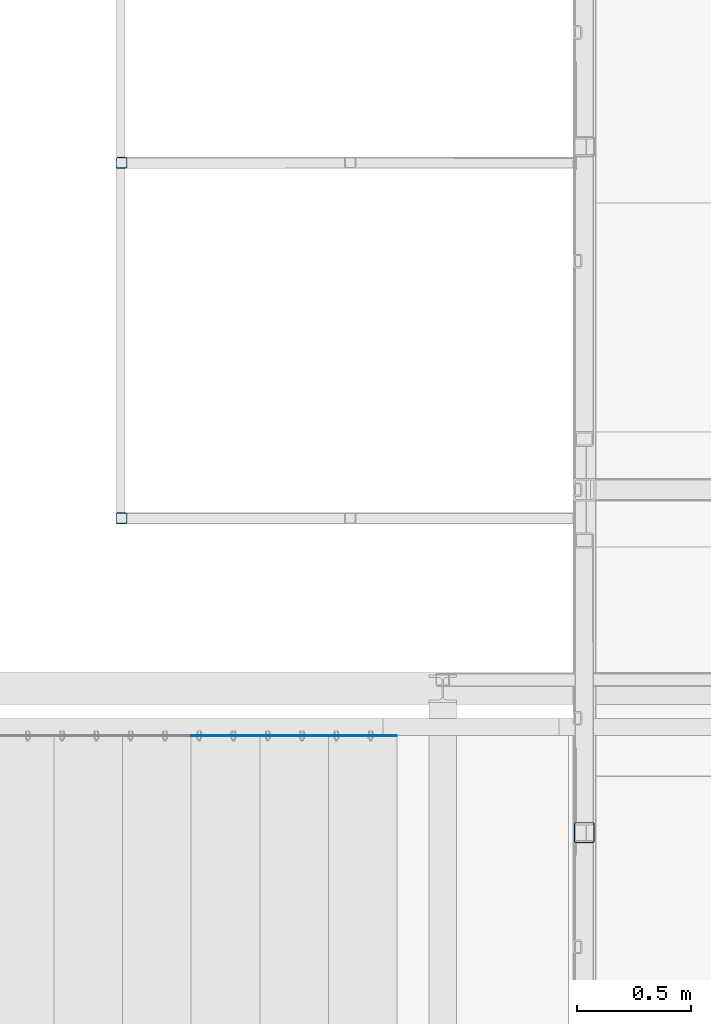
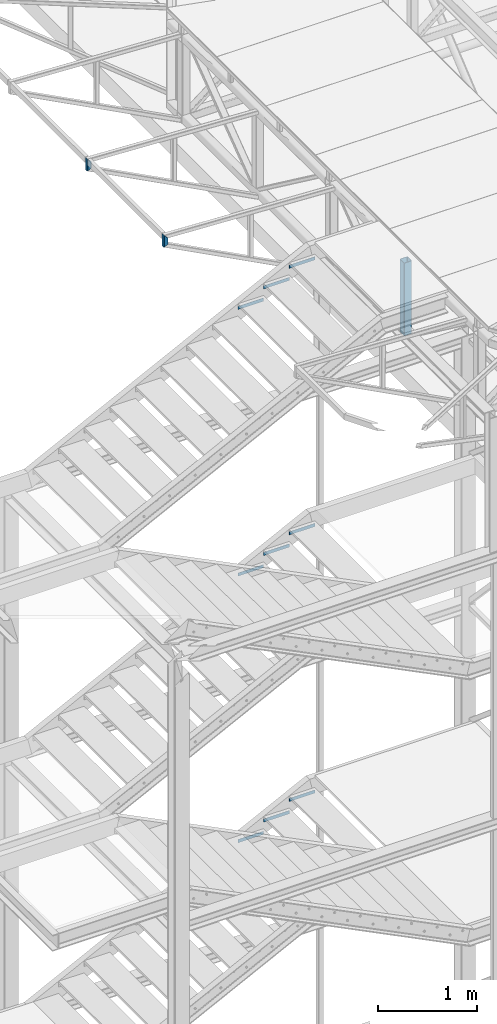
# One storey, part 71 of 132: 12 discrete accessories, 12 elements without a shape of their own.
"""IFC2X3 building model written with IfcOpenShell, lengths in millimetres."""

import ifcopenshell
import ifcopenshell.guid

model = None  # the IFC model being written
_history = None  # IfcOwnerHistory: only IFC2X3 demands one
_inside = {}  # id of a spatial element -> (the spatial element, [elements in it])
_under = {}  # id of a project, library or spatial element -> (it, [spatial elements below it])
_declared = {}  # id of a project -> (the project, [libraries it declares])
_typed = {}  # id of a type object -> (the type object, [elements of that type])
_made_of = {}  # id of a material, layer set ... -> (it, [elements and type objects made of it])


def new_model(schema):
    """Start an empty IFC model of exactly this schema.

    Asked for "IFC4X3", IfcOpenShell would pick the latest addendum, in which some entities
    have other attributes; the version numbers below select the first issue.
    IFC2X3 requires an IfcOwnerHistory on every rooted entity: one is made here for all.
    """
    global model, _history
    if schema == "IFC4X3":
        model = ifcopenshell.file(schema_version=(4, 3, 0, 0))
    else:
        model = ifcopenshell.file(schema=schema)
    _inside.clear()
    _under.clear()
    _declared.clear()
    _typed.clear()
    _made_of.clear()
    _history = None
    if model.schema == "IFC2X3":
        org = make("IfcOrganization", Name="unknown")
        user = make(
            "IfcPersonAndOrganization",
            ThePerson=make("IfcPerson", FamilyName="unknown"),
            TheOrganization=org,
        )
        app = make(
            "IfcApplication",
            ApplicationDeveloper=org,
            Version="unknown",
            ApplicationFullName="unknown",
            ApplicationIdentifier="unknown",
        )
        _history = make(
            "IfcOwnerHistory",
            OwningUser=user,
            OwningApplication=app,
            ChangeAction="ADDED",
            CreationDate=0,
        )
    return model


def make(cls, **values):
    """One entity of the class cls with the attributes given. An attribute that is None is left unset."""
    return model.create_entity(
        cls, **{name: value for name, value in values.items() if value is not None}
    )


def rooted(cls, **values):
    """An entity with a GlobalId (a new one), such as an element, a storey or a relation."""
    return make(cls, GlobalId=ifcopenshell.guid.new(), OwnerHistory=_history, **values)


def si_unit(unit_type, name, prefix=None):
    """IfcSIUnit, for example si_unit("LENGTHUNIT", "METRE", prefix="MILLI")."""
    return make("IfcSIUnit", UnitType=unit_type, Prefix=prefix, Name=name)


def assignment(units):
    """IfcUnitAssignment: the units of a project."""
    return None if units is None else make("IfcUnitAssignment", Units=units)


def point(xyz):
    """IfcCartesianPoint."""
    return None if xyz is None else make("IfcCartesianPoint", Coordinates=xyz)


def direction(xyz):
    """IfcDirection."""
    return None if xyz is None else make("IfcDirection", DirectionRatios=xyz)


def frame(location, z_axis=None, x_axis=None):
    """IfcAxis2Placement3D, a coordinate frame: its origin and axes. An axis left out is left unset."""
    return make(
        "IfcAxis2Placement3D",
        Location=point(location),
        Axis=direction(z_axis),
        RefDirection=direction(x_axis),
    )


def frame_2d(location, x_axis=None):
    """IfcAxis2Placement2D, a coordinate frame in the plane: its origin and x axis."""
    return make(
        "IfcAxis2Placement2D", Location=point(location), RefDirection=direction(x_axis)
    )


def origin_with_axes():
    """The frame at (0, 0, 0) with the z axis (0, 0, 1) and the x axis (1, 0, 0) written out."""
    return frame((0.0, 0.0, 0.0), z_axis=(0.0, 0.0, 1.0), x_axis=(1.0, 0.0, 0.0))


def origin_2d_with_axis():
    """The frame at (0, 0) in the plane with the x axis (1, 0) written out."""
    return frame_2d((0.0, 0.0), x_axis=(1.0, 0.0))


def place(relative_to, where):
    """IfcLocalPlacement: puts the frame where relative to a parent placement (None: the world)."""
    return make(
        "IfcLocalPlacement", PlacementRelTo=relative_to, RelativePlacement=where
    )


def context(
    kind, dimensions, precision=None, world=None, true_north=None, identifier=None
):
    """IfcGeometricRepresentationContext, for example the 3D "Model" context."""
    return make(
        "IfcGeometricRepresentationContext",
        ContextIdentifier=identifier,
        ContextType=kind,
        CoordinateSpaceDimension=dimensions,
        Precision=precision,
        WorldCoordinateSystem=world,
        TrueNorth=true_north,
    )


def subcontext(parent, identifier, kind, view, scale=None):
    """IfcGeometricRepresentationSubContext, for example "Body" below "Model"."""
    return make(
        "IfcGeometricRepresentationSubContext",
        ContextIdentifier=identifier,
        ContextType=kind,
        ParentContext=parent,
        TargetScale=scale,
        TargetView=view,
    )


def project(units=None, contexts=None):
    """IfcProject with its units and contexts."""
    return rooted(
        "IfcProject",
        Name="project",
        RepresentationContexts=contexts,
        UnitsInContext=assignment(units),
    )


def spatial(cls, under=None, at=None, **own):
    """A site, building, storey or space (cls), placed at a placement, below another one or the project."""
    s = rooted(cls, ObjectPlacement=at, **own)
    if under is not None:
        _under.setdefault(under.id(), (under, []))[1].append(s)
    return s


def profile(cls, at=None, kind="AREA", **sizes):
    """A parametric profile (cls). Its sizes go by their IFC names, for example OverallWidth=200.0."""
    return make(cls, ProfileType=kind, Position=at, **sizes)


def rectangle(**sizes):
    """IfcRectangleProfileDef."""
    return profile("IfcRectangleProfileDef", **sizes)


def hollow_rectangle(**sizes):
    """IfcRectangleHollowProfileDef."""
    return profile("IfcRectangleHollowProfileDef", **sizes)


def extrude(swept, where, along, depth):
    """IfcExtrudedAreaSolid: the profile swept, set in the frame where, extruded along a direction by depth."""
    return make(
        "IfcExtrudedAreaSolid",
        SweptArea=swept,
        Position=where,
        ExtrudedDirection=direction(along),
        Depth=depth,
    )


def clip(a, b, op="DIFFERENCE"):
    """IfcBooleanClippingResult: the solid a cut by the half space b."""
    return make(
        "IfcBooleanClippingResult", Operator=op, FirstOperand=a, SecondOperand=b
    )


def halfspace(plane, agree):
    """IfcHalfSpaceSolid: all space on one side of the plane z = 0 of the frame plane."""
    return make(
        "IfcHalfSpaceSolid",
        BaseSurface=make("IfcPlane", Position=plane),
        AgreementFlag=agree,
    )


def shape(context_of_items, identifier, shape_type, items):
    """IfcShapeRepresentation: the items that make up one representation, for example the "Body"."""
    return make(
        "IfcShapeRepresentation",
        ContextOfItems=context_of_items,
        RepresentationIdentifier=identifier,
        RepresentationType=shape_type,
        Items=items,
    )


def material(Name=None, Category=None):
    """IfcMaterial."""
    return make("IfcMaterial", Name=Name, Category=Category)


def made_of(thing, what):
    """Note that an element or type object is made of a material, layer set ...; save() writes the relation."""
    if what is not None:
        _made_of.setdefault(what.id(), (what, []))[1].append(thing)
    return thing


def type_object(cls, material=None, **own):
    """A type object (cls), such as IfcWallType, which elements share."""
    return made_of(rooted(cls, **own), material)


def element(
    cls,
    number,
    at=None,
    inside=None,
    cuts=None,
    type_object=None,
    material=None,
    context=None,
    identifier="Body",
    shape_type=None,
    held_by="IfcProductDefinitionShape",
    body=None,
    shapes=None,
    **own,
):
    """One element of the class cls, such as IfcWall. Its Tag is "e" and its number.

    at: its placement. inside: the storey or other place that contains it. cuts: it is an
    opening in that element (IfcRelVoidsElement). A single representation is given by context,
    identifier, shape_type and body (its items); several are given by shapes. held_by: the class
    of the entity that holds the representations. save() writes the other relations.
    """
    e = rooted(cls, Tag="e%d" % number, ObjectPlacement=at, **own)
    if body is not None:
        shapes = [shape(context, identifier, shape_type, body)]
    if shapes is not None:
        e.Representation = make(held_by, Representations=shapes)
    if inside is not None:
        _inside.setdefault(inside.id(), (inside, []))[1].append(e)
    if cuts is not None:
        rooted(
            "IfcRelVoidsElement", RelatingBuildingElement=cuts, RelatedOpeningElement=e
        )
    if type_object is not None:
        _typed.setdefault(type_object.id(), (type_object, []))[1].append(e)
    return made_of(e, material)


def aggregate(whole, parts):
    """IfcRelAggregates: a whole, such as a stair, and the parts it consists of."""
    return rooted("IfcRelAggregates", RelatingObject=whole, RelatedObjects=parts)


def save(model, path):
    """Write the relations noted so far, then the file.

    IfcRelAggregates (storeys below a building ...), IfcRelContainedInSpatialStructure (elements
    in a storey), IfcRelDefinesByType, IfcRelAssociatesMaterial and IfcRelDeclares: one each for
    every whole, place, type object, material and project.
    """
    for whole, parts in _under.values():
        aggregate(whole, parts)
    for where, things in _inside.values():
        rooted(
            "IfcRelContainedInSpatialStructure",
            RelatedElements=things,
            RelatingStructure=where,
        )
    for kind, things in _typed.values():
        rooted("IfcRelDefinesByType", RelatedObjects=things, RelatingType=kind)
    for what, things in _made_of.values():
        rooted("IfcRelAssociatesMaterial", RelatedObjects=things, RelatingMaterial=what)
    for by, libraries in _declared.values():
        rooted("IfcRelDeclares", RelatingContext=by, RelatedDefinitions=libraries)
    model.write(path)


model = new_model("IFC2X3")

# Units and contexts
model_context = context("Model", 3, precision=1e-05, world=origin_with_axes())
body_context = subcontext(model_context, "Body", "Model", "MODEL_VIEW")
ifc_project = project(units=[si_unit("LENGTHUNIT", "METRE", prefix="MILLI"), si_unit("AREAUNIT", "SQUARE_METRE"), si_unit("VOLUMEUNIT", "CUBIC_METRE"), si_unit("MASSUNIT", "GRAM", prefix="KILO"), si_unit("TIMEUNIT", "SECOND"), si_unit("PLANEANGLEUNIT", "RADIAN"), si_unit("SOLIDANGLEUNIT", "STERADIAN"), si_unit("THERMODYNAMICTEMPERATUREUNIT", "DEGREE_CELSIUS"), si_unit("LUMINOUSINTENSITYUNIT", "LUMEN")], contexts=[model_context])

# Site, building, storey
site_placement = place(None, origin_with_axes())
site = spatial("IfcSite", under=ifc_project, at=site_placement, Name="Budowa", CompositionType="ELEMENT")
building_placement = place(site_placement, origin_with_axes())
building = spatial("IfcBuilding", under=site, at=building_placement, Name="Undefined", CompositionType="ELEMENT")
storey_placement = place(building_placement, origin_with_axes())
storey = spatial("IfcBuildingStorey", under=building, at=storey_placement, Name="Undefined", CompositionType="ELEMENT", Elevation=0.0)

# Assembly, discrete accessory
assembly_1_placement = place(storey_placement, origin_with_axes())
assembly_1 = element("IfcElementAssembly", 1, at=assembly_1_placement, inside=storey, Name="Steel Assembly", AssemblyPlace="NOTDEFINED", PredefinedType="RIGID_FRAME")
ifc_material_1 = material(Name="STEEL/S235")
discrete_accessory_type_1 = type_object("IfcDiscreteAccessoryType", Name="BEAM")
discrete_accessory_1_placement = place(assembly_1_placement, frame((-2025.0003815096, 11875.0000000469, 13979.9998397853), z_axis=(0.0, 1.0, 0.0), x_axis=(0.0, 0.0, -1.0)))
discrete_accessory_1 = element("IfcDiscreteAccessory", 2, at=discrete_accessory_1_placement, type_object=discrete_accessory_type_1, material=ifc_material_1, Name="BEAM", ObjectType="SHS50*4", context=body_context, shape_type="Clipping", body=[
    clip(clip(extrude(hollow_rectangle(XDim=50.0, YDim=50.0, WallThickness=4.0, InnerFilletRadius=4.0, OuterFilletRadius=8.0, at=origin_2d_with_axis()), frame((176.695154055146, 0.0, 0.0), z_axis=(-1.0, 0.0, 0.0), x_axis=(0.0, -1.0, 0.0)), (0.0, 0.0, 1.0), 192.23), halfspace(frame((149.999998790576, 25.0, 0.0), z_axis=(0.855808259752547, -0.517293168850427, 0.0), x_axis=(0.0, 0.0, -1.0)), False)), halfspace(frame((-0.00517939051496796, 25.0, 0.0), z_axis=(-0.689225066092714, -0.724547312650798, 2.88487317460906e-10), x_axis=(0.0, 0.0, 1.0)), False)),
])
aggregate(assembly_1, [discrete_accessory_1])

assembly_2_placement = place(storey_placement, origin_with_axes())
assembly_2 = element("IfcElementAssembly", 3, at=assembly_2_placement, inside=storey, Name="Steel Assembly", AssemblyPlace="NOTDEFINED", PredefinedType="RIGID_FRAME")
discrete_accessory_2_placement = place(assembly_2_placement, frame((-2025.0003815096, 13430.000000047, 13979.9998397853), z_axis=(0.0, 1.0, 0.0), x_axis=(0.0, 0.0, -1.0)))
discrete_accessory_2 = element("IfcDiscreteAccessory", 4, at=discrete_accessory_2_placement, type_object=discrete_accessory_type_1, material=ifc_material_1, Name="BEAM", ObjectType="SHS50*4", context=body_context, shape_type="Clipping", body=[
    clip(clip(extrude(hollow_rectangle(XDim=50.0, YDim=50.0, WallThickness=4.0, InnerFilletRadius=4.0, OuterFilletRadius=8.0, at=origin_2d_with_axis()), frame((176.695154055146, 0.0, 0.0), z_axis=(-1.0, 0.0, 0.0), x_axis=(0.0, -1.0, 0.0)), (0.0, 0.0, 1.0), 192.23), halfspace(frame((149.999998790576, 25.0, 0.0), z_axis=(0.855808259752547, -0.517293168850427, 0.0), x_axis=(0.0, 0.0, -1.0)), False)), halfspace(frame((-0.00517939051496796, 25.0, 0.0), z_axis=(-0.689225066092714, -0.724547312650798, 2.88487317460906e-10), x_axis=(0.0, 0.0, 1.0)), False)),
])
aggregate(assembly_2, [discrete_accessory_2])

assembly_3_placement = place(storey_placement, origin_with_axes())
assembly_3 = element("IfcElementAssembly", 5, at=assembly_3_placement, inside=storey, Name="Steel Assembly", AssemblyPlace="NOTDEFINED", PredefinedType="RIGID_FRAME")
discrete_accessory_3_placement = place(assembly_3_placement, frame((0.0999999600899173, 10500.0000000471, 12880.0), z_axis=(0.0, 0.0, 1.0), x_axis=(0.0, 1.0, 0.0)))
discrete_accessory_3 = element("IfcDiscreteAccessory", 6, at=discrete_accessory_3_placement, type_object=discrete_accessory_type_1, material=ifc_material_1, Name="BEAM", ObjectType="SHS90*4", context=body_context, shape_type="Clipping", body=[
    clip(clip(extrude(hollow_rectangle(XDim=90.0, YDim=90.0, WallThickness=4.0, InnerFilletRadius=4.0, OuterFilletRadius=8.0, at=origin_2d_with_axis()), frame((0.0, 0.0, 900.0), z_axis=(0.0, 0.0, -1.0), x_axis=(0.0, 1.0, 0.0)), (0.0, 0.0, 1.0), 900.0), halfspace(frame((1000.0, 0.0, 900.0), z_axis=(0.0, 0.0, -1.0), x_axis=(0.0, 1.0, 0.0)), True)), halfspace(frame((1000.0, 0.0, 0.0), z_axis=(0.0, 0.0, 1.0), x_axis=(0.0, -1.0, 0.0)), True)),
])
aggregate(assembly_3, [discrete_accessory_3])

assembly_4_placement = place(storey_placement, origin_with_axes())
assembly_4 = element("IfcElementAssembly", 7, at=assembly_4_placement, inside=storey, Name="Steel Assembly", AssemblyPlace="NOTDEFINED", PredefinedType="RIGID_FRAME")
ifc_material_2 = material(Name="STEEL/S235JR")
discrete_accessory_type_2 = type_object("IfcDiscreteAccessoryType", Name="ANGLE")
discrete_accessory_4_placement = place(assembly_4_placement, frame((-1120.00000008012, 10923.5000000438, 13829.9999999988), z_axis=(0.0, -1.0, 0.0), x_axis=(1.0, 0.0, 0.0)))
discrete_accessory_4 = element("IfcDiscreteAccessory", 8, at=discrete_accessory_4_placement, type_object=discrete_accessory_type_2, material=ifc_material_2, Name="ANGLE", ObjectType="3*40", context=body_context, shape_type="SweptSolid", body=[
    extrude(rectangle(XDim=40.0, YDim=3.0, at=origin_2d_with_axis()), frame((300.0, 0.0, 0.0), z_axis=(-1.0, 0.0, 0.0), x_axis=(0.0, -1.0, 0.0)), (0.0, 0.0, 1.0), 300.0),
])
aggregate(assembly_4, [discrete_accessory_4])

assembly_5_placement = place(storey_placement, origin_with_axes())
assembly_5 = element("IfcElementAssembly", 9, at=assembly_5_placement, inside=storey, Name="Steel Assembly", AssemblyPlace="NOTDEFINED", PredefinedType="RIGID_FRAME")
discrete_accessory_5_placement = place(assembly_5_placement, frame((-1420.00000008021, 10923.5000000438, 13679.9999999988), z_axis=(0.0, -1.0, 0.0), x_axis=(1.0, 0.0, 0.0)))
discrete_accessory_5 = element("IfcDiscreteAccessory", 10, at=discrete_accessory_5_placement, type_object=discrete_accessory_type_2, material=ifc_material_2, Name="ANGLE", ObjectType="3*40", context=body_context, shape_type="SweptSolid", body=[
    extrude(rectangle(XDim=40.0, YDim=3.0, at=origin_2d_with_axis()), frame((300.0, 0.0, 0.0), z_axis=(-1.0, 0.0, 0.0), x_axis=(0.0, -1.0, 0.0)), (0.0, 0.0, 1.0), 300.0),
])
aggregate(assembly_5, [discrete_accessory_5])

assembly_6_placement = place(storey_placement, origin_with_axes())
assembly_6 = element("IfcElementAssembly", 11, at=assembly_6_placement, inside=storey, Name="Steel Assembly", AssemblyPlace="NOTDEFINED", PredefinedType="RIGID_FRAME")
discrete_accessory_6_placement = place(assembly_6_placement, frame((-1720.0000000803, 10923.5000000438, 13529.9999999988), z_axis=(0.0, -1.0, 0.0), x_axis=(1.0, 0.0, 0.0)))
discrete_accessory_6 = element("IfcDiscreteAccessory", 12, at=discrete_accessory_6_placement, type_object=discrete_accessory_type_2, material=ifc_material_2, Name="ANGLE", ObjectType="3*40", context=body_context, shape_type="SweptSolid", body=[
    extrude(rectangle(XDim=40.0, YDim=3.0, at=origin_2d_with_axis()), frame((300.0, 0.0, 0.0), z_axis=(-1.0, 0.0, 0.0), x_axis=(0.0, -1.0, 0.0)), (0.0, 0.0, 1.0), 300.0),
])
aggregate(assembly_6, [discrete_accessory_6])

assembly_7_placement = place(storey_placement, origin_with_axes())
assembly_7 = element("IfcElementAssembly", 13, at=assembly_7_placement, inside=storey, Name="Steel Assembly", AssemblyPlace="NOTDEFINED", PredefinedType="RIGID_FRAME")
discrete_accessory_7_placement = place(assembly_7_placement, frame((-1120.00000008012, 10923.5000000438, 10529.9999999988), z_axis=(0.0, -1.0, 0.0), x_axis=(1.0, 0.0, 0.0)))
discrete_accessory_7 = element("IfcDiscreteAccessory", 14, at=discrete_accessory_7_placement, type_object=discrete_accessory_type_2, material=ifc_material_2, Name="ANGLE", ObjectType="3*40", context=body_context, shape_type="SweptSolid", body=[
    extrude(rectangle(XDim=40.0, YDim=3.0, at=origin_2d_with_axis()), frame((300.0, 0.0, 0.0), z_axis=(-1.0, 0.0, 0.0), x_axis=(0.0, -1.0, 0.0)), (0.0, 0.0, 1.0), 300.0),
])
aggregate(assembly_7, [discrete_accessory_7])

assembly_8_placement = place(storey_placement, origin_with_axes())
assembly_8 = element("IfcElementAssembly", 15, at=assembly_8_placement, inside=storey, Name="Steel Assembly", AssemblyPlace="NOTDEFINED", PredefinedType="RIGID_FRAME")
discrete_accessory_8_placement = place(assembly_8_placement, frame((-1420.00000008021, 10923.5000000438, 10379.9999999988), z_axis=(0.0, -1.0, 0.0), x_axis=(1.0, 0.0, 0.0)))
discrete_accessory_8 = element("IfcDiscreteAccessory", 16, at=discrete_accessory_8_placement, type_object=discrete_accessory_type_2, material=ifc_material_2, Name="ANGLE", ObjectType="3*40", context=body_context, shape_type="SweptSolid", body=[
    extrude(rectangle(XDim=40.0, YDim=3.0, at=origin_2d_with_axis()), frame((300.0, 0.0, 0.0), z_axis=(-1.0, 0.0, 0.0), x_axis=(0.0, -1.0, 0.0)), (0.0, 0.0, 1.0), 300.0),
])
aggregate(assembly_8, [discrete_accessory_8])

assembly_9_placement = place(storey_placement, origin_with_axes())
assembly_9 = element("IfcElementAssembly", 17, at=assembly_9_placement, inside=storey, Name="Steel Assembly", AssemblyPlace="NOTDEFINED", PredefinedType="RIGID_FRAME")
discrete_accessory_9_placement = place(assembly_9_placement, frame((-1720.0000000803, 10923.5000000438, 10229.9999999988), z_axis=(0.0, -1.0, 0.0), x_axis=(1.0, 0.0, 0.0)))
discrete_accessory_9 = element("IfcDiscreteAccessory", 18, at=discrete_accessory_9_placement, type_object=discrete_accessory_type_2, material=ifc_material_2, Name="ANGLE", ObjectType="3*40", context=body_context, shape_type="SweptSolid", body=[
    extrude(rectangle(XDim=40.0, YDim=3.0, at=origin_2d_with_axis()), frame((300.0, 0.0, 0.0), z_axis=(-1.0, 0.0, 0.0), x_axis=(0.0, -1.0, 0.0)), (0.0, 0.0, 1.0), 300.0),
])
aggregate(assembly_9, [discrete_accessory_9])

assembly_10_placement = place(storey_placement, origin_with_axes())
assembly_10 = element("IfcElementAssembly", 19, at=assembly_10_placement, inside=storey, Name="Steel Assembly", AssemblyPlace="NOTDEFINED", PredefinedType="RIGID_FRAME")
discrete_accessory_10_placement = place(assembly_10_placement, frame((-1120.00000008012, 10923.5000000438, 7229.99999999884), z_axis=(0.0, -1.0, 0.0), x_axis=(1.0, 0.0, 0.0)))
discrete_accessory_10 = element("IfcDiscreteAccessory", 20, at=discrete_accessory_10_placement, type_object=discrete_accessory_type_2, material=ifc_material_2, Name="ANGLE", ObjectType="3*40", context=body_context, shape_type="SweptSolid", body=[
    extrude(rectangle(XDim=40.0, YDim=3.0, at=origin_2d_with_axis()), frame((300.0, 0.0, 0.0), z_axis=(-1.0, 0.0, 0.0), x_axis=(0.0, -1.0, 0.0)), (0.0, 0.0, 1.0), 300.0),
])
aggregate(assembly_10, [discrete_accessory_10])

assembly_11_placement = place(storey_placement, origin_with_axes())
assembly_11 = element("IfcElementAssembly", 21, at=assembly_11_placement, inside=storey, Name="Steel Assembly", AssemblyPlace="NOTDEFINED", PredefinedType="RIGID_FRAME")
discrete_accessory_11_placement = place(assembly_11_placement, frame((-1420.00000008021, 10923.5000000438, 7079.99999999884), z_axis=(0.0, -1.0, 0.0), x_axis=(1.0, 0.0, 0.0)))
discrete_accessory_11 = element("IfcDiscreteAccessory", 22, at=discrete_accessory_11_placement, type_object=discrete_accessory_type_2, material=ifc_material_2, Name="ANGLE", ObjectType="3*40", context=body_context, shape_type="SweptSolid", body=[
    extrude(rectangle(XDim=40.0, YDim=3.0, at=origin_2d_with_axis()), frame((300.0, 0.0, 0.0), z_axis=(-1.0, 0.0, 0.0), x_axis=(0.0, -1.0, 0.0)), (0.0, 0.0, 1.0), 300.0),
])
aggregate(assembly_11, [discrete_accessory_11])

assembly_12_placement = place(storey_placement, origin_with_axes())
assembly_12 = element("IfcElementAssembly", 23, at=assembly_12_placement, inside=storey, Name="Steel Assembly", AssemblyPlace="NOTDEFINED", PredefinedType="RIGID_FRAME")
discrete_accessory_12_placement = place(assembly_12_placement, frame((-1720.00000008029, 10923.5000000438, 6929.99999999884), z_axis=(0.0, -1.0, 0.0), x_axis=(1.0, 0.0, 0.0)))
discrete_accessory_12 = element("IfcDiscreteAccessory", 24, at=discrete_accessory_12_placement, type_object=discrete_accessory_type_2, material=ifc_material_2, Name="ANGLE", ObjectType="3*40", context=body_context, shape_type="SweptSolid", body=[
    extrude(rectangle(XDim=40.0, YDim=3.0, at=origin_2d_with_axis()), frame((300.0, 0.0, 0.0), z_axis=(-1.0, 0.0, 0.0), x_axis=(0.0, -1.0, 0.0)), (0.0, 0.0, 1.0), 300.0),
])
aggregate(assembly_12, [discrete_accessory_12])

save(model, "model.ifc")
